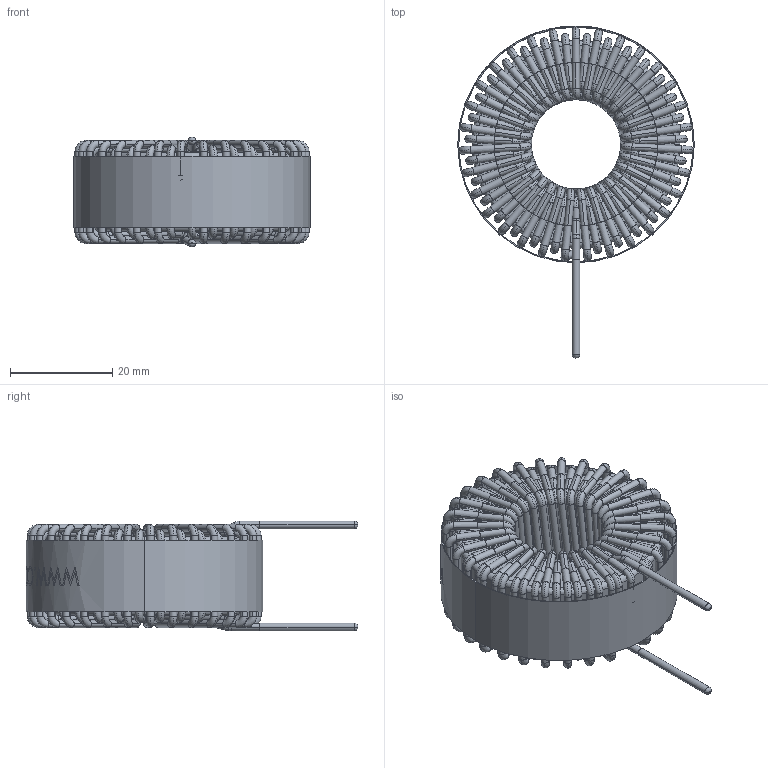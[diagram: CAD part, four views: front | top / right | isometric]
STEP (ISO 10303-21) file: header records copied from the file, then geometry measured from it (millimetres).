
FILE_DESCRIPTION (( 'STEP AP214' ), '1' );
FILE_NAME ('HF400-601M-8.0AV.STEP', '2021-05-28T07:09:55', ( '' ), ( '' ), 'SwSTEP 2.0', 'SolidWorks 2015', '' );
FILE_SCHEMA (( 'AUTOMOTIVE_DESIGN' ));
Length unit declared in the file: millimetre
Products named in the file (4): WINDING; WRAPPER; HF400-601M-8.0AV; CORE
Assembly tree (3 placements, depth 2):
  HF400-601M-8.0AV
    CORE
    WINDING
    WRAPPER
Bounding box: 46.3 x 64.96 x 21.52 mm (x, y, z)
Volume: 19656.7 mm3; surface area: 25181.1 mm2
Topology: 64 solids, 64 shells, 1462 faces, 3922 edges, 2606 vertices
Faces by surface type: cylinder 664, torus 524, plane 171, bspline 103
Entity records: 72392 total; most frequent: CARTESIAN_POINT 18308, DIRECTION 9219, ORIENTED_EDGE 7844, AXIS2_PLACEMENT_3D 4274, EDGE_CURVE 3922, CIRCLE 2909, VERTEX_POINT 2606, EDGE_LOOP 1484
